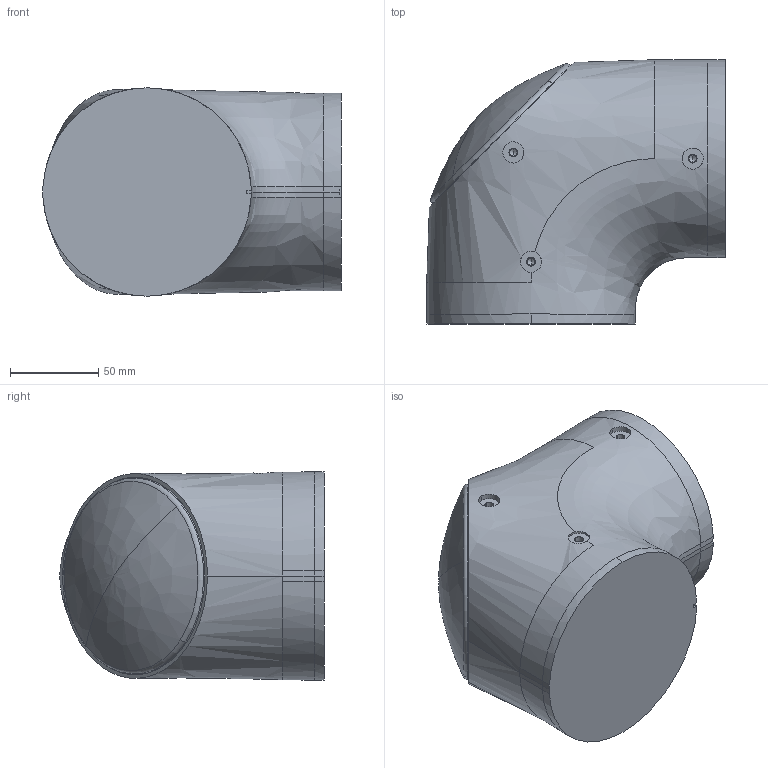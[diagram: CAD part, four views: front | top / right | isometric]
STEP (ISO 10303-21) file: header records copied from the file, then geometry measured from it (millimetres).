
FILE_DESCRIPTION (( 'STEP AP214' ), '1' );
FILE_NAME ('CRB1910_13kg-1340_OmniCore_rev00_Link3.step', '2026-03-26T03:33:54', ( '' ), ( '' ), 'SwSTEP 2.0', 'SolidWorks 2022', '' );
FILE_SCHEMA (( 'AUTOMOTIVE_DESIGN' ));
Length unit declared in the file: millimetre
Products named in the file (1): CRB1910_13kg-1340_OmniCore_rev00_Link3
Bounding box: 169.08 x 149.68 x 118 mm (x, y, z)
Volume: 1980030.8 mm3; surface area: 91649.9 mm2
Topology: 1 solids, 1 shells, 74 faces, 182 edges, 112 vertices
Faces by surface type: cylinder 28, plane 24, bspline 12, cone 8, torus 2
Entity records: 8938 total; most frequent: CARTESIAN_POINT 7287, ORIENTED_EDGE 348, DIRECTION 304, EDGE_CURVE 174, AXIS2_PLACEMENT_3D 117, VERTEX_POINT 112, EDGE_LOOP 84, FACE_OUTER_BOUND 74
